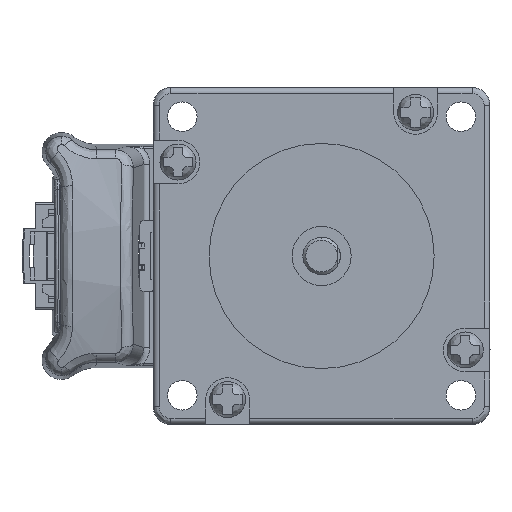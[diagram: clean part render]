
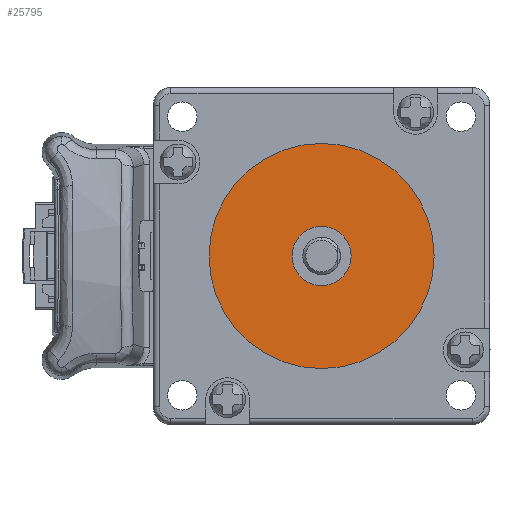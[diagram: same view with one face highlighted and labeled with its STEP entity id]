
A CAD part, left-side view. The second image highlights one B-rep face of the part: STEP entity #25795.
In plain terms, the highlighted planar face has unit normal (-1, 0, 0) as drawn and (0, 0, 1) by its records, which use the part's own axes.
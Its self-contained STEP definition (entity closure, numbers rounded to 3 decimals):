
#2618 = AXIS2_PLACEMENT_3D ( 'NONE', #94819, #10572, #76244 ) ;
#2913 = ORIENTED_EDGE ( 'NONE', *, *, #16301, .F. ) ;
#5074 = DIRECTION ( 'NONE',  ( -1., 0., 0. ) ) ;
#8714 = CARTESIAN_POINT ( 'NONE',  ( 11.261, -149.743, -17.4 ) ) ;
#10196 = AXIS2_PLACEMENT_3D ( 'NONE', #18622, #84390, #28044 ) ;
#10572 = DIRECTION ( 'NONE',  ( 0., 0., 1. ) ) ;
#13054 = CARTESIAN_POINT ( 'NONE',  ( -7.789, -149.743, -17.4 ) ) ;
#16301 = EDGE_CURVE ( 'NONE', #107081, #45794, #45887, .T. ) ;
#18574 = EDGE_CURVE ( 'NONE', #42013, #58027, #65285, .T. ) ;
#18622 = CARTESIAN_POINT ( 'NONE',  ( -7.789, -149.743, -17.4 ) ) ;
#22446 = DIRECTION ( 'NONE',  ( 1., 0., 0. ) ) ;
#23074 = DIRECTION ( 'NONE',  ( 0., 0., -1. ) ) ;
#23430 = FACE_BOUND ( 'NONE', #80390, .T. ) ;
#25795 = ADVANCED_FACE ( 'NONE', ( #70503, #23430 ), #66778, .T. ) ;
#28044 = DIRECTION ( 'NONE',  ( -1., 0., 0. ) ) ;
#29375 = EDGE_CURVE ( 'NONE', #45794, #107081, #37772, .T. ) ;
#30274 = AXIS2_PLACEMENT_3D ( 'NONE', #79413, #23074, #88874 ) ;
#31689 = EDGE_CURVE ( 'NONE', #58027, #42013, #69534, .T. ) ;
#37772 = CIRCLE ( 'NONE', #30274, 19.05 ) ;
#42013 = VERTEX_POINT ( 'NONE', #78288 ) ;
#43631 = CARTESIAN_POINT ( 'NONE',  ( -2.789, -149.743, -17.4 ) ) ;
#45794 = VERTEX_POINT ( 'NONE', #121894 ) ;
#45887 = CIRCLE ( 'NONE', #112527, 19.05 ) ;
#58027 = VERTEX_POINT ( 'NONE', #43631 ) ;
#59201 = EDGE_LOOP ( 'NONE', ( #2913, #69378 ) ) ;
#61290 = DIRECTION ( 'NONE',  ( 0., 0., -1. ) ) ;
#65285 = CIRCLE ( 'NONE', #10196, 5. ) ;
#66778 = PLANE ( 'NONE',  #2618 ) ;
#69378 = ORIENTED_EDGE ( 'NONE', *, *, #29375, .F. ) ;
#69534 = CIRCLE ( 'NONE', #77611, 5. ) ;
#70503 = FACE_OUTER_BOUND ( 'NONE', #59201, .T. ) ;
#76244 = DIRECTION ( 'NONE',  ( 1., 0., 0. ) ) ;
#77611 = AXIS2_PLACEMENT_3D ( 'NONE', #117770, #61290, #5074 ) ;
#78288 = CARTESIAN_POINT ( 'NONE',  ( -12.789, -149.743, -17.4 ) ) ;
#78774 = DIRECTION ( 'NONE',  ( 0., 0., -1. ) ) ;
#79413 = CARTESIAN_POINT ( 'NONE',  ( -7.789, -149.743, -17.4 ) ) ;
#80390 = EDGE_LOOP ( 'NONE', ( #82892, #115077 ) ) ;
#82892 = ORIENTED_EDGE ( 'NONE', *, *, #18574, .T. ) ;
#84390 = DIRECTION ( 'NONE',  ( 0., 0., -1. ) ) ;
#88874 = DIRECTION ( 'NONE',  ( 1., 0., 0. ) ) ;
#94819 = CARTESIAN_POINT ( 'NONE',  ( -28.744, -170.483, -17.4 ) ) ;
#107081 = VERTEX_POINT ( 'NONE', #8714 ) ;
#112527 = AXIS2_PLACEMENT_3D ( 'NONE', #13054, #78774, #22446 ) ;
#115077 = ORIENTED_EDGE ( 'NONE', *, *, #31689, .T. ) ;
#117770 = CARTESIAN_POINT ( 'NONE',  ( -7.789, -149.743, -17.4 ) ) ;
#121894 = CARTESIAN_POINT ( 'NONE',  ( -26.839, -149.743, -17.4 ) ) ;
